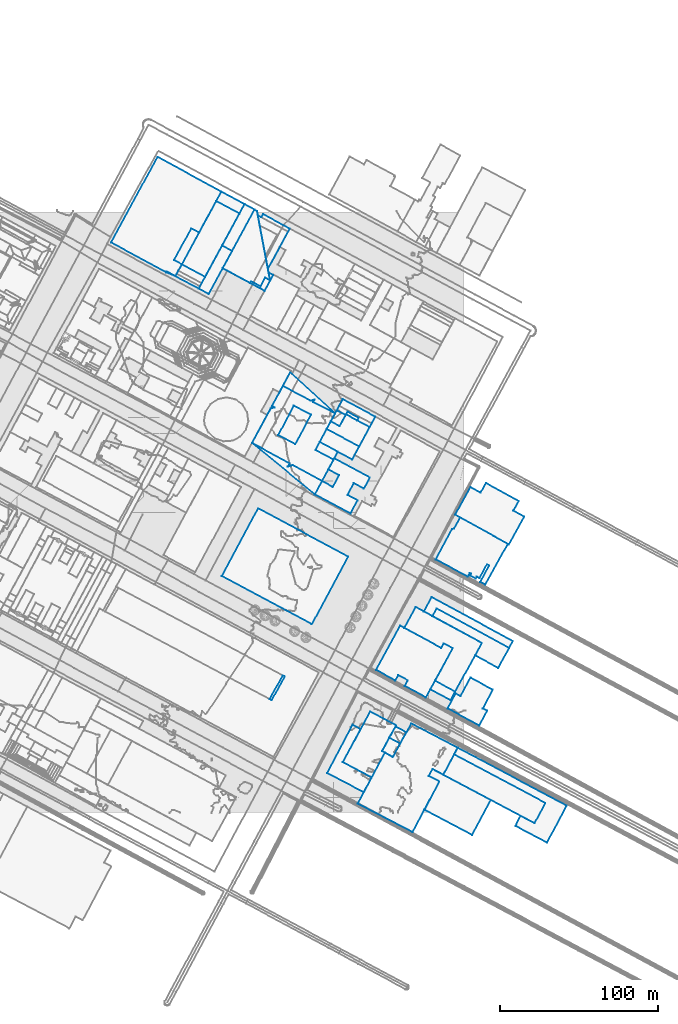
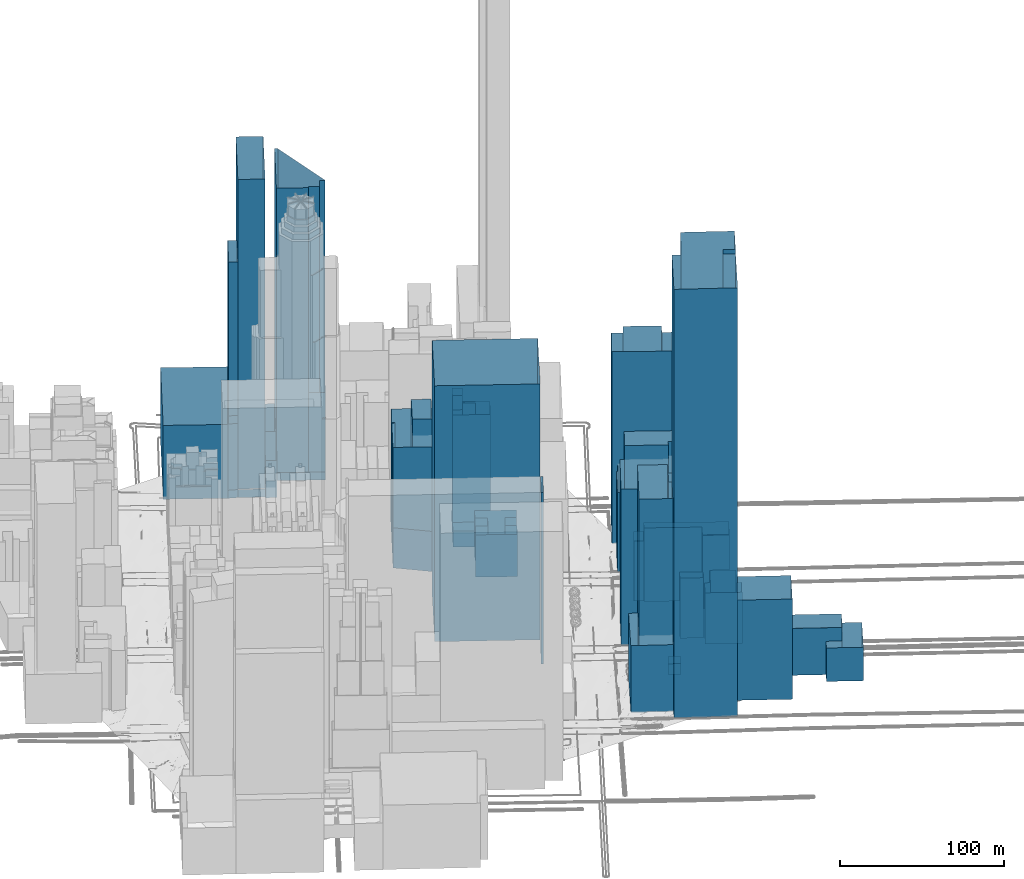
# Not in any storey, part 29 of 76: 37 walls.
"""IFC2X3 model written with IfcOpenShell, lengths in metres."""

from ifc_helpers import new_model, si_unit, frame, origin_with_axes, place, context, subcontext, project, faceted_brep, element, save


model = new_model("IFC2X3")

# Units and contexts
model_context = context("Model", 3, precision=1e-05, world=origin_with_axes())
body_context = subcontext(model_context, "Body", "Model", "MODEL_VIEW")
ifc_project = project(units=[si_unit("AREAUNIT", "SQUARE_METRE"), si_unit("LENGTHUNIT", "METRE")], contexts=[model_context])

# Walls
wall_1_placement = place(None, frame((366.2645429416, 36.6542156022, 20.5453743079), z_axis=(0.0, 0.0, 1.0), x_axis=(1.0, 0.0, 0.0)))
element("IfcWall", 1, at=wall_1_placement, Name="Mur 0", context=body_context, shape_type="Brep", body=[
    faceted_brep([(57.6510256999, -30.6476367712, 25.0), (0.0, 0.0, 25.0), (57.6510256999, -30.6476367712, 0.0), (0.0, 0.0, 0.0), (50.7770092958, -43.4731624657, 25.0), (50.7770092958, -43.4731624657, 0.0), (41.9344578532, -38.7800531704, 25.0), (41.9344578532, -38.7800531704, 0.0), (38.741565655, -45.1344526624, 25.0), (38.741565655, -45.1344526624, 0.0), (58.6609342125, -55.7269742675, 25.0), (58.6609342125, -55.7269742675, 0.0), (71.0847208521, -32.3451003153, 25.0), (71.0847208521, -32.3451003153, 0.0), (2.2468139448, 4.2339315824, 25.0), (2.2468139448, 4.2339315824, 0.0)], [[[0, 1, 2]], [[2, 1, 3]], [[4, 0, 5]], [[5, 0, 2]], [[6, 4, 7]], [[7, 4, 5]], [[8, 6, 9]], [[9, 6, 7]], [[10, 8, 11]], [[11, 8, 9]], [[12, 10, 13]], [[13, 10, 11]], [[1, 14, 3]], [[3, 14, 15]], [[14, 12, 15]], [[15, 12, 13]]]),
])
wall_2_placement = place(None, frame((351.223740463, 77.768312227, 19.2455414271), z_axis=(0.0, 0.0, 1.0), x_axis=(1.0, 0.0, 0.0)))
element("IfcWall", 2, at=wall_2_placement, Name="Mur 0", context=body_context, shape_type="Brep", body=[
    faceted_brep([(12.6918312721, -6.868784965, 45.0), (0.0, 0.0, 45.0), (12.6918312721, -6.868784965, 0.0), (0.0, 0.0, 0.0), (15.6589919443, -1.4274175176, 45.0), (15.6589919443, -1.4274175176, 0.0), (2.9670376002, 5.4524630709, 45.0), (2.9670376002, 5.4524630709, 0.0)], [[[0, 1, 2]], [[2, 1, 3]], [[4, 0, 5]], [[5, 0, 2]], [[1, 6, 3]], [[3, 6, 7]], [[6, 4, 7]], [[7, 4, 5]]]),
])
wall_3_placement = place(None, frame((362.0676322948, 65.7598579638, 18.6080020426), z_axis=(0.0, 0.0, 1.0), x_axis=(1.0, 0.0, 0.0)))
element("IfcWall", 3, at=wall_3_placement, Name="Mur 0", context=body_context, shape_type="Brep", body=[
    faceted_brep([(20.0566144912, -10.8019749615, 38.0999984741), (0.0, 0.0, 38.0999984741), (20.0566144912, -10.8019749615, 0.0), (0.0, 0.0, 0.0), (25.0968062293, -1.4284483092, 38.0999984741), (25.0968062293, -1.4284483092, 0.0), (22.3613697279, 0.0495845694, 38.0999984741), (22.3613697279, 0.0495845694, 0.0), (28.6575999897, 11.7470203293, 38.0999984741), (28.6575999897, 11.7470203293, 0.0), (14.5135056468, 19.3648949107, 38.0999984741), (14.5135056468, 19.3648949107, 0.0), (8.2419351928, 7.7232700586, 38.0999984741), (8.2419351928, 7.7232700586, 0.0), (5.0818940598, 9.4184075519, 38.0999984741), (5.0818940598, 9.4184075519, 0.0)], [[[0, 1, 2]], [[2, 1, 3]], [[4, 0, 5]], [[5, 0, 2]], [[6, 4, 7]], [[7, 4, 5]], [[8, 6, 9]], [[9, 6, 7]], [[10, 8, 11]], [[11, 8, 9]], [[12, 10, 13]], [[13, 10, 11]], [[1, 14, 3]], [[3, 14, 15]], [[14, 12, 15]], [[15, 12, 13]]]),
])
wall_4_placement = place(None, frame((347.1381641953, 127.0369642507, 18.5508047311), z_axis=(0.0, 0.0, 1.0), x_axis=(1.0, 0.0, 0.0)))
element("IfcWall", 4, at=wall_4_placement, Name="Mur 0", context=body_context, shape_type="Brep", body=[
    faceted_brep([(5.3954967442, -3.0124802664, 45.0), (0.0, 0.0, 45.0), (5.3954967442, -3.0124802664, 0.0), (0.0, 0.0, 0.0), (8.0571999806, 1.8369054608, 45.0), (8.0571999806, 1.8369054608, 0.0), (53.8061372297, -23.131939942, 45.0), (53.8061372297, -23.131939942, 0.0), (56.1693942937, -18.7523097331, 45.0), (56.1693942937, -18.7523097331, 0.0), (4.9095321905, 8.9945052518, 45.0), (4.9095321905, 8.9945052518, 0.0)], [[[0, 1, 2]], [[2, 1, 3]], [[4, 0, 5]], [[5, 0, 2]], [[6, 4, 7]], [[7, 4, 5]], [[8, 6, 9]], [[9, 6, 7]], [[1, 10, 3]], [[3, 10, 11]], [[10, 8, 11]], [[11, 8, 9]]]),
])
wall_5_placement = place(None, frame((352.5336609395, 124.0244839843, 18.1637870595), z_axis=(0.0, 0.0, 1.0), x_axis=(1.0, 0.0, 0.0)))
element("IfcWall", 5, at=wall_5_placement, Name="Mur 0", context=body_context, shape_type="Brep", body=[
    faceted_brep([(31.2631371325, -16.9997120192, 55.0), (0.0, 0.0, 55.0), (31.2631371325, -16.9997120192, 0.0), (0.0, 0.0, 0.0), (26.9895697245, -24.7877841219, 55.0), (26.9895697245, -24.7877841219, 0.0), (41.5765562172, -32.7446614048, 55.0), (41.5765562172, -32.7446614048, 0.0), (48.4106404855, -20.1194596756, 55.0), (48.4106404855, -20.1194596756, 0.0), (2.6617032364, 4.8493857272, 55.0), (2.6617032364, 4.8493857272, 0.0)], [[[0, 1, 2]], [[2, 1, 3]], [[4, 0, 5]], [[5, 0, 2]], [[6, 4, 7]], [[7, 4, 5]], [[8, 6, 9]], [[9, 6, 7]], [[1, 10, 3]], [[3, 10, 11]], [[10, 8, 11]], [[11, 8, 9]]]),
])
wall_6_placement = place(None, frame((334.7408311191, 116.6007819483, 18.3898649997), z_axis=(0.0, 0.0, 1.0), x_axis=(1.0, 0.0, 0.0)))
element("IfcWall", 6, at=wall_6_placement, Name="Mur 0", context=body_context, shape_type="Brep", body=[
    faceted_brep([(23.4383723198, -12.7055475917, 127.0), (0.0, 0.0, 127.0), (23.4383723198, -12.7055475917, 0.0), (0.0, 0.0, 0.0), (25.0583062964, -9.7334756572, 127.0), (25.0583062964, -9.7334756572, 0.0), (30.6991136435, -12.7874983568, 127.0), (30.6991136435, -12.7874983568, 0.0), (19.4499469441, -33.3800066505, 127.0), (19.4499469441, -33.3800066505, 0.0), (32.1419012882, -40.259887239, 127.0), (32.1419012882, -40.259887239, 0.0), (49.0559669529, -9.5760099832, 127.0), (49.0559669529, -9.5760099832, 0.0), (7.2237486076, 13.24030801, 127.0), (7.2237486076, 13.24030801, 0.0)], [[[0, 1, 2]], [[2, 1, 3]], [[4, 0, 5]], [[5, 0, 2]], [[6, 4, 7]], [[7, 4, 5]], [[8, 6, 9]], [[9, 6, 7]], [[10, 8, 11]], [[11, 8, 9]], [[12, 10, 13]], [[13, 10, 11]], [[1, 14, 3]], [[3, 14, 15]], [[14, 12, 15]], [[15, 12, 13]]]),
])
wall_7_placement = place(None, frame((316.8661601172, 90.1024902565, 18.3898649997), z_axis=(0.0, 0.0, 1.0), x_axis=(1.0, 0.0, 0.0)))
element("IfcWall", 7, at=wall_7_placement, Name="Mur 0", context=body_context, shape_type="Brep", body=[
    faceted_brep([(12.2588560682, -6.6629415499, 116.6999969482), (0.0, 0.0, 116.6999969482), (12.2588560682, -6.6629415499, 0.0), (0.0, 0.0, 0.0), (14.07724135, -3.3332932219, 116.6999969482), (14.07724135, -3.3332932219, 0.0), (20.1343500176, -6.6156371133, 116.6999969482), (20.1343500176, -6.6156371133, 0.0), (18.1999973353, -10.1353758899, 116.6999969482), (18.1999973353, -10.1353758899, 0.0), (31.5123618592, -17.3744372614, 116.6999969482), (31.5123618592, -17.3744372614, 0.0), (48.5737846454, 13.710793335, 116.6999969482), (48.5737846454, 13.710793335, 0.0), (42.9329772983, 16.7648160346, 116.6999969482), (42.9329772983, 16.7648160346, 0.0), (41.3130433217, 13.7927441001, 116.6999969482), (41.3130433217, 13.7927441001, 0.0), (15.300279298, 27.9227073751, 116.6999969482), (15.300279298, 27.9227073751, 0.0)], [[[0, 1, 2]], [[2, 1, 3]], [[4, 0, 5]], [[5, 0, 2]], [[6, 4, 7]], [[7, 4, 5]], [[8, 6, 9]], [[9, 6, 7]], [[10, 8, 11]], [[11, 8, 9]], [[12, 10, 13]], [[13, 10, 11]], [[14, 12, 15]], [[15, 12, 13]], [[16, 14, 17]], [[17, 14, 15]], [[1, 18, 3]], [[3, 18, 19]], [[18, 16, 19]], [[19, 16, 17]]]),
])
wall_8_placement = place(None, frame((325.3175902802, 47.212952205, 19.8238031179), z_axis=(0.0, 0.0, 1.0), x_axis=(1.0, 0.0, 0.0)))
element("IfcWall", 8, at=wall_8_placement, Name="Mur 0", context=body_context, shape_type="Brep", body=[
    faceted_brep([(6.8126112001, -3.6399257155, 8.0), (0.0, 0.0, 8.0), (6.8126112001, -3.6399257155, 0.0), (0.0, 0.0, 0.0), (10.7830119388, 3.3674274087, 8.0), (10.7830119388, 3.3674274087, 0.0), (3.893923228, 7.050867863, 8.0), (3.893923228, 7.050867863, 0.0)], [[[0, 1, 2]], [[2, 1, 3]], [[4, 0, 5]], [[5, 0, 2]], [[1, 6, 3]], [[3, 6, 7]], [[6, 4, 7]], [[7, 4, 5]]]),
])
wall_9_placement = place(None, frame((320.7317155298, 38.6885317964, 19.3320157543), z_axis=(0.0, 0.0, 1.0), x_axis=(1.0, 0.0, 0.0)))
element("IfcWall", 9, at=wall_9_placement, Name="Mur 0", context=body_context, shape_type="Brep", body=[
    faceted_brep([(6.8210570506, -3.6398316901, 151.0), (0.0, 0.0, 151.0), (6.8210570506, -3.6398316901, 0.0), (0.0, 0.0, 0.0), (11.3984859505, 4.884494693, 151.0), (11.3984859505, 4.884494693, 0.0), (4.5858747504, 8.5244204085, 151.0), (4.5858747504, 8.5244204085, 0.0)], [[[0, 1, 2]], [[2, 1, 3]], [[4, 0, 5]], [[5, 0, 2]], [[1, 6, 3]], [[3, 6, 7]], [[6, 4, 7]], [[7, 4, 5]]]),
])
wall_10_placement = place(None, frame((295.9848400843, 31.8056900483, 19.3320157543), z_axis=(0.0, 0.0, 1.0), x_axis=(1.0, 0.0, 0.0)))
element("IfcWall", 10, at=wall_10_placement, Name="Mur 0", context=body_context, shape_type="Brep", body=[
    faceted_brep([(18.152605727, -9.6807885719, 151.0), (0.0, 0.0, 151.0), (18.152605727, -9.6807885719, 0.0), (0.0, 0.0, 0.0), (26.5646548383, 5.9159065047, 151.0), (26.5646548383, 5.9159065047, 0.0), (24.7468754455, 6.8828417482, 151.0), (24.7468754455, 6.8828417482, 0.0), (33.5466758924, 23.2501167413, 151.0), (33.5466758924, 23.2501167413, 0.0), (17.2118998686, 31.9639296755, 151.0), (17.2118998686, 31.9639296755, 0.0)], [[[0, 1, 2]], [[2, 1, 3]], [[4, 0, 5]], [[5, 0, 2]], [[6, 4, 7]], [[7, 4, 5]], [[8, 6, 9]], [[9, 6, 7]], [[1, 10, 3]], [[3, 10, 11]], [[10, 8, 11]], [[11, 8, 9]]]),
])
wall_11_placement = place(None, frame((286.0454970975, 24.8510106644, 18.703520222), z_axis=(0.0, 0.0, 1.0), x_axis=(1.0, 0.0, 0.0)))
element("IfcWall", 11, at=wall_11_placement, Name="Mur 0", context=body_context, shape_type="Brep", body=[
    faceted_brep([(23.1269540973, -12.0431954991, 50.0), (0.0, 0.0, 50.0), (23.1269540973, -12.0431954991, 0.0), (0.0, 0.0, 0.0), (28.0919487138, -2.7261091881, 50.0), (28.0919487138, -2.7261091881, 0.0), (9.9393429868, 6.9546793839, 50.0), (9.9393429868, 6.9546793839, 0.0), (21.1440946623, 27.7575168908, 50.0), (21.1440946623, 27.7575168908, 0.0), (16.1055235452, 30.5632428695, 50.0), (16.1055235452, 30.5632428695, 0.0)], [[[0, 1, 2]], [[2, 1, 3]], [[4, 0, 5]], [[5, 0, 2]], [[6, 4, 7]], [[7, 4, 5]], [[8, 6, 9]], [[9, 6, 7]], [[1, 10, 3]], [[3, 10, 11]], [[10, 8, 11]], [[11, 8, 9]]]),
])
wall_12_placement = place(None, frame((305.3985923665, 5.5918232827, 19.5472220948), z_axis=(0.0, 0.0, 1.0), x_axis=(1.0, 0.0, 0.0)))
element("IfcWall", 12, at=wall_12_placement, Name="Mur 0", context=body_context, shape_type="Brep", body=[
    faceted_brep([(34.6180123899, -17.9933581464, 320.0), (0.0, 0.0, 320.0), (34.6180123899, -17.9933581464, 0.0), (0.0, 0.0, 0.0), (51.5516846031, 13.93412623, 320.0), (51.5516846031, 13.93412623, 0.0), (44.841101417, 17.5086047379, 320.0), (44.841101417, 17.5086047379, 0.0), (47.1626007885, 21.8544235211, 320.0), (47.1626007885, 21.8544235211, 0.0), (53.9919956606, 18.2258198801, 320.0), (53.9919956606, 18.2258198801, 0.0), (63.1127645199, 35.296323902, 320.0), (63.1127645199, 35.296323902, 0.0), (33.8269836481, 50.6537947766, 320.0), (33.8269836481, 50.6537947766, 0.0), (22.1541802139, 29.4568768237, 320.0), (22.1541802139, 29.4568768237, 0.0), (17.1509025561, 32.1297732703, 320.0), (17.1509025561, 32.1297732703, 0.0)], [[[0, 1, 2]], [[2, 1, 3]], [[4, 0, 5]], [[5, 0, 2]], [[6, 4, 7]], [[7, 4, 5]], [[8, 6, 9]], [[9, 6, 7]], [[10, 8, 11]], [[11, 8, 9]], [[12, 10, 13]], [[13, 10, 11]], [[14, 12, 15]], [[15, 12, 13]], [[16, 14, 17]], [[17, 14, 15]], [[1, 18, 3]], [[3, 18, 19]], [[18, 16, 19]], [[19, 16, 17]]]),
])
wall_13_placement = place(None, frame((347.4572556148, 1.796092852, 20.3614833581), z_axis=(0.0, 0.0, 1.0), x_axis=(1.0, 0.0, 0.0)))
element("IfcWall", 13, at=wall_13_placement, Name="Mur 0", context=body_context, shape_type="Brep", body=[
    faceted_brep([(30.0699170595, -15.9811361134, 74.8000030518), (0.0, 0.0, 74.8000030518), (30.0699170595, -15.9811361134, 0.0), (0.0, 0.0, 0.0), (41.8928147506, 6.0946882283, 74.8000030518), (41.8928147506, 6.0946882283, 0.0), (5.1039375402, 25.6501539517, 74.8000030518), (5.1039375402, 25.6501539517, 0.0), (2.7824381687, 21.3043351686, 74.8000030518), (2.7824381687, 21.3043351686, 0.0), (9.4930213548, 17.7298566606, 74.8000030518), (9.4930213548, 17.7298566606, 0.0)], [[[0, 1, 2]], [[2, 1, 3]], [[4, 0, 5]], [[5, 0, 2]], [[6, 4, 7]], [[7, 4, 5]], [[8, 6, 9]], [[9, 6, 7]], [[1, 10, 3]], [[3, 10, 11]], [[10, 8, 11]], [[11, 8, 9]]]),
])
wall_14_placement = place(None, frame((359.3905880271, 23.8176431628, 20.6359845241), z_axis=(0.0, 0.0, 1.0), x_axis=(1.0, 0.0, 0.0)))
element("IfcWall", 14, at=wall_14_placement, Name="Mur 0", context=body_context, shape_type="Brep", body=[
    faceted_brep([(57.6509642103, -30.6365900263, 35.0), (0.0, 0.0, 35.0), (57.6509642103, -30.6365900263, 0.0), (0.0, 0.0, 0.0), (64.5249806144, -17.8110643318, 35.0), (64.5249806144, -17.8110643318, 0.0), (6.8739549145, 12.8365724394, 35.0), (6.8739549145, 12.8365724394, 0.0)], [[[0, 1, 2]], [[2, 1, 3]], [[4, 0, 5]], [[5, 0, 2]], [[1, 6, 3]], [[3, 6, 7]], [[6, 4, 7]], [[7, 4, 5]]]),
])
wall_15_placement = place(None, frame((249.6836035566, 71.5902685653, 39.4467245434), z_axis=(0.0, 0.0, 1.0), x_axis=(1.0, 0.0, 0.0)))
element("IfcWall", 15, at=wall_15_placement, Name="Mur 0", context=body_context, shape_type="Brep", body=[
    faceted_brep([(1.2910926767, -0.6844212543, 128.0), (0.0, 0.0, 128.0), (1.2910926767, -0.6844212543, 0.0), (0.0, 0.0, 0.0), (9.6089023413, 14.3115828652, 128.0), (9.6089023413, 14.3115828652, 0.0), (8.3176822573, 15.0071034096, 128.0), (8.3176822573, 15.0071034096, 0.0)], [[[0, 1, 2]], [[2, 1, 3]], [[4, 0, 5]], [[5, 0, 2]], [[1, 6, 3]], [[3, 6, 7]], [[6, 4, 7]], [[7, 4, 5]]]),
])
wall_16_placement = place(None, frame((219.5112298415, 149.4213804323, 19.4237571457), z_axis=(0.0, 0.0, 1.0), x_axis=(1.0, 0.0, 0.0)))
element("IfcWall", 16, at=wall_16_placement, Name="Mur 0", context=body_context, shape_type="Brep", body=[
    faceted_brep([(56.8882083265, -30.5132920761, 191.0), (0.0, 0.0, 191.0), (56.8882083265, -30.5132920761, 0.0), (0.0, 0.0, 0.0), (79.8162954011, 12.2086158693, 191.0), (79.8162954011, 12.2086158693, 0.0), (22.9281798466, 42.7328309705, 191.0), (22.9281798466, 42.7328309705, 0.0)], [[[0, 1, 2]], [[2, 1, 3]], [[4, 0, 5]], [[5, 0, 2]], [[1, 6, 3]], [[3, 6, 7]], [[6, 4, 7]], [[7, 4, 5]]]),
])
wall_17_placement = place(None, frame((238.5657352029, 233.4317503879, 16.8303387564), z_axis=(0.0, 0.0, 1.0), x_axis=(1.0, 0.0, 0.0)))
element("IfcWall", 17, at=wall_17_placement, Name="Mur 0", context=body_context, shape_type="Brep", body=[
    faceted_brep([(39.6892356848, -32.423071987, 30.0), (0.0, 0.0, 30.0), (39.6892356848, -32.423071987, 0.0), (0.0, 0.0, 0.0), (54.2336192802, -5.5639508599, 30.0), (54.2336192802, -5.5639508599, 0.0), (42.7234641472, 0.6192596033, 30.0), (42.7234641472, 0.6192596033, 0.0), (52.5160379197, 18.7078011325, 30.0), (52.5160379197, 18.7078011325, 0.0), (24.1716147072, 44.6569637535, 30.0), (24.1716147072, 44.6569637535, 0.0)], [[[0, 1, 2]], [[2, 1, 3]], [[4, 0, 5]], [[5, 0, 2]], [[6, 4, 7]], [[7, 4, 5]], [[8, 6, 9]], [[9, 6, 7]], [[1, 10, 3]], [[3, 10, 11]], [[10, 8, 11]], [[11, 8, 9]]]),
])
wall_18_placement = place(None, frame((238.5657352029, 233.4317503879, 16.8288003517), z_axis=(0.0, 0.0, 1.0), x_axis=(1.0, 0.0, 0.0)))
element("IfcWall", 18, at=wall_18_placement, Name="Mur 0", context=body_context, shape_type="Brep", body=[
    faceted_brep([(23.8036133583, -12.9458392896, 90.0), (0.0, 0.0, 90.0), (23.8036133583, -12.9458392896, 0.0), (0.0, 0.0, 0.0), (22.5444502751, -15.0033068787, 90.0), (22.5444502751, -15.0033068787, 0.0), (25.6386092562, -13.9458941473, 90.0), (25.6386092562, -13.9458941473, 0.0), (44.2262175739, -24.0546749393, 90.0), (44.2262175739, -24.0546749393, 0.0), (51.6324175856, -10.5347354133, 90.0), (51.6324175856, -10.5347354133, 0.0), (40.0549929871, -4.3745082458, 90.0), (40.0549929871, -4.3745082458, 0.0), (52.5160379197, 18.7078011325, 90.0), (52.5160379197, 18.7078011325, 0.0), (38.7491765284, 25.8639517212, 90.0), (38.7491765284, 25.8639517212, 0.0), (39.5570742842, 27.5275912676, 90.0), (39.5570742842, 27.5275912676, 0.0), (37.0929847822, 26.7328570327, 90.0), (37.0929847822, 26.7328570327, 0.0), (19.5537404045, 35.9878752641, 90.0), (19.5537404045, 35.9878752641, 0.0), (12.610114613, 23.3393253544, 90.0), (12.610114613, 23.3393253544, 0.0), (14.2581221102, 22.4481148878, 90.0), (14.2581221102, 22.4481148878, 0.0), (11.841957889, 21.887094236, 90.0), (11.841957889, 21.887094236, 0.0)], [[[0, 1, 2]], [[2, 1, 3]], [[4, 0, 5]], [[5, 0, 2]], [[6, 4, 7]], [[7, 4, 5]], [[8, 6, 9]], [[9, 6, 7]], [[10, 8, 11]], [[11, 8, 9]], [[12, 10, 13]], [[13, 10, 11]], [[14, 12, 15]], [[15, 12, 13]], [[16, 14, 17]], [[17, 14, 15]], [[18, 16, 19]], [[19, 16, 17]], [[20, 18, 21]], [[21, 18, 19]], [[22, 20, 23]], [[23, 20, 21]], [[24, 22, 25]], [[25, 22, 23]], [[26, 24, 27]], [[27, 24, 25]], [[1, 28, 3]], [[3, 28, 29]], [[28, 26, 29]], [[29, 26, 27]]]),
])
wall_19_placement = place(None, frame((255.1464477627, 238.3653204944, 18.4349327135), z_axis=(0.0, 0.0, 1.0), x_axis=(1.0, 0.0, 0.0)))
element("IfcWall", 19, at=wall_19_placement, Name="Mur 0", context=body_context, shape_type="Brep", body=[
    faceted_brep([(10.8206467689, -5.6916724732, 100.5999984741), (0.0, 0.0, 100.5999984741), (10.8206467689, -5.6916724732, 0.0), (0.0, 0.0, 0.0), (20.6914610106, 12.9306667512, 100.5999984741), (20.6914610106, 12.9306667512, 0.0), (9.8708329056, 18.6223246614, 100.5999984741), (9.8708329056, 18.6223246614, 0.0)], [[[0, 1, 2]], [[2, 1, 3]], [[4, 0, 5]], [[5, 0, 2]], [[1, 6, 3]], [[3, 6, 7]], [[6, 4, 7]], [[7, 4, 5]]]),
])
wall_20_placement = place(None, frame((281.2891993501, 234.0510099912, 16.9743140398), z_axis=(0.0, 0.0, 1.0), x_axis=(1.0, 0.0, 0.0)))
element("IfcWall", 20, at=wall_20_placement, Name="Mur 0", context=body_context, shape_type="Brep", body=[
    faceted_brep([(20.548297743, -11.0296043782, 12.0), (0.0, 0.0, 12.0), (20.548297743, -11.0296043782, 0.0), (0.0, 0.0, 0.0), (24.9775825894, -2.8400815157, 12.0), (24.9775825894, -2.8400815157, 0.0), (4.43774046, 8.1896087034, 12.0), (4.43774046, 8.1896087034, 0.0)], [[[0, 1, 2]], [[2, 1, 3]], [[4, 0, 5]], [[5, 0, 2]], [[1, 6, 3]], [[3, 6, 7]], [[6, 4, 7]], [[7, 4, 5]]]),
])
wall_21_placement = place(None, frame((288.3298169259, 247.0670920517, 18.7313016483), z_axis=(0.0, 0.0, 1.0), x_axis=(1.0, 0.0, 0.0)))
element("IfcWall", 21, at=wall_21_placement, Name="Mur 0", context=body_context, shape_type="Brep", body=[
    faceted_brep([(5.5893839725, -2.9991613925, 101.0), (0.0, 0.0, 101.0), (5.5893839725, -2.9991613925, 0.0), (0.0, 0.0, 0.0), (9.3741480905, 3.9949121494, 101.0), (9.3741480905, 3.9949121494, 0.0), (3.7847676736, 6.9940706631, 101.0), (3.7847676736, 6.9940706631, 0.0)], [[[0, 1, 2]], [[2, 1, 3]], [[4, 0, 5]], [[5, 0, 2]], [[1, 6, 3]], [[3, 6, 7]], [[6, 4, 7]], [[7, 4, 5]]]),
])
wall_22_placement = place(None, frame((297.9268132, 251.4975866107, 44.1625825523), z_axis=(0.0, 0.0, 1.0), x_axis=(1.0, 0.0, 0.0)))
element("IfcWall", 22, at=wall_22_placement, Name="Mur 0", context=body_context, shape_type="Brep", body=[
    faceted_brep([(7.1354708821, -3.8360285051, 64.0), (0.0, 0.0, 64.0), (7.1354708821, -3.8360285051, 0.0), (0.0, 0.0, 0.0), (8.0608818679, -2.115506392, 64.0), (8.0608818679, -2.115506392, 0.0), (0.933852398, 1.7206194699, 64.0), (0.933852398, 1.7206194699, 0.0)], [[[0, 1, 2]], [[2, 1, 3]], [[4, 0, 5]], [[5, 0, 2]], [[1, 6, 3]], [[3, 6, 7]], [[6, 4, 7]], [[7, 4, 5]]]),
])
wall_23_placement = place(None, frame((285.7269398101, 242.2406186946, 17.7274277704), z_axis=(0.0, 0.0, 1.0), x_axis=(1.0, 0.0, 0.0)))
element("IfcWall", 23, at=wall_23_placement, Name="Mur 0", context=body_context, shape_type="Brep", body=[
    faceted_brep([(20.5398421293, -11.0296902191, 91.4000015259), (0.0, 0.0, 91.4000015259), (20.5398421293, -11.0296902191, 0.0), (0.0, 0.0, 0.0), (27.1673222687, 1.2155503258, 91.4000015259), (27.1673222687, 1.2155503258, 0.0), (12.1998733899, 9.2569679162, 91.4000015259), (12.1998733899, 9.2569679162, 0.0), (8.1922610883, 1.8273119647, 91.4000015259), (8.1922610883, 1.8273119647, 0.0), (2.6028771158, 4.8264733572, 91.4000015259), (2.6028771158, 4.8264733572, 0.0)], [[[0, 1, 2]], [[2, 1, 3]], [[4, 0, 5]], [[5, 0, 2]], [[6, 4, 7]], [[7, 4, 5]], [[8, 6, 9]], [[9, 6, 7]], [[1, 10, 3]], [[3, 10, 11]], [[10, 8, 11]], [[11, 8, 9]]]),
])
wall_24_placement = place(None, frame((281.2891993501, 234.0510099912, 16.9743140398), z_axis=(0.0, 0.0, 1.0), x_axis=(1.0, 0.0, 0.0)))
element("IfcWall", 24, at=wall_24_placement, Name="Mur 0", context=body_context, shape_type="Brep", body=[
    faceted_brep([(20.548297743, -11.0296043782, 6.0), (0.0, 0.0, 6.0), (20.548297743, -11.0296043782, 0.0), (0.0, 0.0, 0.0), (35.1750149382, 15.9970600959, 6.0), (35.1750149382, 15.9970600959, 0.0), (14.6350787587, 27.0378225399, 6.0), (14.6350787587, 27.0378225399, 0.0)], [[[0, 1, 2]], [[2, 1, 3]], [[4, 0, 5]], [[5, 0, 2]], [[1, 6, 3]], [[3, 6, 7]], [[6, 4, 7]], [[7, 4, 5]]]),
])
wall_25_placement = place(None, frame((278.2549708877, 201.0086784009, 15.6757471), z_axis=(0.0, 0.0, 1.0), x_axis=(1.0, 0.0, 0.0)))
element("IfcWall", 25, at=wall_25_placement, Name="Mur 0", context=body_context, shape_type="Brep", body=[
    faceted_brep([(22.4777859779, -12.1617877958, 31.6000003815), (0.0, 0.0, 31.6000003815), (22.4777859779, -12.1617877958, 0.0), (0.0, 0.0, 0.0), (27.0063104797, -3.7934751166, 31.6000003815), (27.0063104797, -3.7934751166, 0.0), (20.6180660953, -0.3373262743, 31.6000003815), (20.6180660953, -0.3373262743, 0.0), (24.609593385, 7.0255305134, 31.6000003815), (24.609593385, 7.0255305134, 0.0), (30.9978335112, 3.5693851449, 31.6000003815), (30.9978335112, 3.5693851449, 0.0), (34.7826050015, 10.5634660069, 31.6000003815), (34.7826050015, 10.5634660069, 0.0), (12.3131764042, 22.7364151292, 31.6000003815), (12.3131764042, 22.7364151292, 0.0), (8.5200795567, 15.7311468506, 31.6000003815), (8.5200795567, 15.7311468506, 0.0), (15.3500450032, 12.0358801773, 31.6000003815), (15.3500450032, 12.0358801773, 0.0), (11.3669518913, 4.6731266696, 31.6000003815), (11.3669518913, 4.6731266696, 0.0), (4.536981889, 8.3683970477, 31.6000003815), (4.536981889, 8.3683970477, 0.0)], [[[0, 1, 2]], [[2, 1, 3]], [[4, 0, 5]], [[5, 0, 2]], [[6, 4, 7]], [[7, 4, 5]], [[8, 6, 9]], [[9, 6, 7]], [[10, 8, 11]], [[11, 8, 9]], [[12, 10, 13]], [[13, 10, 11]], [[14, 12, 15]], [[15, 12, 13]], [[16, 14, 17]], [[17, 14, 15]], [[18, 16, 19]], [[19, 16, 17]], [[20, 18, 21]], [[21, 18, 19]], [[1, 22, 3]], [[3, 22, 23]], [[22, 20, 23]], [[23, 20, 21]]]),
])
wall_26_placement = place(None, frame((354.5806057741, 159.9086306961, 17.7443665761), z_axis=(0.0, 0.0, 1.0), x_axis=(1.0, 0.0, 0.0)))
element("IfcWall", 26, at=wall_26_placement, Name="Mur 0", context=body_context, shape_type="Brep", body=[
    faceted_brep([(20.2430773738, -10.8886351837, 59.5), (0.0, 0.0, 59.5), (20.2430773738, -10.8886351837, 0.0), (0.0, 0.0, 0.0), (21.4989884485, -8.5536292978, 59.5), (21.4989884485, -8.5536292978, 0.0), (22.5353152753, -9.1077698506, 59.5), (22.5353152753, -9.1077698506, 0.0), (21.8992428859, -10.3031231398, 59.5), (21.8992428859, -10.3031231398, 0.0), (25.339599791, -12.150421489, 59.5), (25.339599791, -12.150421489, 0.0), (26.0172271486, -10.8990723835, 59.5), (26.0172271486, -10.8990723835, 0.0), (27.7331858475, -11.8227699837, 59.5), (27.7331858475, -11.8227699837, 0.0), (32.40982227, -3.1307145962, 59.5), (32.40982227, -3.1307145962, 0.0), (33.7605140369, -3.8588264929, 59.5), (33.7605140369, -3.8588264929, 0.0), (28.183275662, -14.2267162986, 59.5), (28.183275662, -14.2267162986, 0.0), (31.3347213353, -15.9108444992, 59.5), (31.3347213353, -15.9108444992, 0.0), (45.6136333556, 9.8018659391, 59.5), (45.6136333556, 9.8018659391, 0.0), (15.4436623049, 26.458968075, 59.5), (15.4436623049, 26.458968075, 0.0), (11.6676290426, 19.4427545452, 59.5), (11.6676290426, 19.4427545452, 0.0), (10.3118314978, 19.1605049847, 59.5), (10.3118314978, 19.1605049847, 0.0)], [[[0, 1, 2]], [[2, 1, 3]], [[4, 0, 5]], [[5, 0, 2]], [[6, 4, 7]], [[7, 4, 5]], [[8, 6, 9]], [[9, 6, 7]], [[10, 8, 11]], [[11, 8, 9]], [[12, 10, 13]], [[13, 10, 11]], [[14, 12, 15]], [[15, 12, 13]], [[16, 14, 17]], [[17, 14, 15]], [[18, 16, 19]], [[19, 16, 17]], [[20, 18, 21]], [[21, 18, 19]], [[22, 20, 23]], [[23, 20, 21]], [[24, 22, 25]], [[25, 22, 23]], [[26, 24, 27]], [[27, 24, 25]], [[28, 26, 29]], [[29, 26, 27]], [[1, 30, 3]], [[3, 30, 31]], [[30, 28, 31]], [[31, 28, 29]]]),
])
wall_27_placement = place(None, frame((366.8637568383, 188.1071389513, 17.7938249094), z_axis=(0.0, 0.0, 1.0), x_axis=(1.0, 0.0, 0.0)))
element("IfcWall", 27, at=wall_27_placement, Name="Mur 0", context=body_context, shape_type="Brep", body=[
    faceted_brep([(33.9506416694, -18.7335846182, 143.0), (0.0, 0.0, 143.0), (33.9506416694, -18.7335846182, 0.0), (0.0, 0.0, 0.0), (43.7072874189, -1.2004133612, 143.0), (43.7072874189, -1.2004133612, 0.0), (36.8338707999, 2.5941615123, 143.0), (36.8338707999, 2.5941615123, 0.0), (40.1741687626, 8.6061127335, 143.0), (40.1741687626, 8.6061127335, 0.0), (19.4860618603, 20.0223811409, 143.0), (19.4860618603, 20.0223811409, 0.0), (16.0878345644, 13.9098440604, 143.0), (16.0878345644, 13.9098440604, 0.0), (9.6986507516, 17.4436317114, 143.0), (9.6986507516, 17.4436317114, 0.0)], [[[0, 1, 2]], [[2, 1, 3]], [[4, 0, 5]], [[5, 0, 2]], [[6, 4, 7]], [[7, 4, 5]], [[8, 6, 9]], [[9, 6, 7]], [[10, 8, 11]], [[11, 8, 9]], [[12, 10, 13]], [[13, 10, 11]], [[1, 14, 3]], [[3, 14, 15]], [[14, 12, 15]], [[15, 12, 13]]]),
])
wall_28_placement = place(None, frame((219.6501998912, 358.1121317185, 21.8344391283), z_axis=(0.0, 0.0, 1.0), x_axis=(1.0, 0.0, 0.0)))
element("IfcWall", 28, at=wall_28_placement, Name="Mur 0", context=body_context, shape_type="Brep", body=[
    faceted_brep([(6.2692645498, -3.4020859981, 27.7000007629), (0.0, 0.0, 27.7000007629), (6.2692645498, -3.4020859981, 0.0), (0.0, 0.0, 0.0), (20.4756016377, 22.7535668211, 27.7000007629), (20.4756016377, 22.7535668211, 0.0), (14.1893424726, 26.1665450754, 27.7000007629), (14.1893424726, 26.1665450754, 0.0)], [[[0, 1, 2]], [[2, 1, 3]], [[4, 0, 5]], [[5, 0, 2]], [[1, 6, 3]], [[3, 6, 7]], [[6, 4, 7]], [[7, 4, 5]]]),
])
wall_29_placement = place(None, frame((237.4075822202, 334.4377302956, 21.8574343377), z_axis=(0.0, 0.0, 1.0), x_axis=(1.0, 0.0, 0.0)))
element("IfcWall", 29, at=wall_29_placement, Name="Mur 0", context=body_context, shape_type="Brep", body=[
    faceted_brep([(9.0722546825, -4.8904699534, 65.0), (0.0, 0.0, 65.0), (9.0722546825, -4.8904699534, 0.0), (0.0, 0.0, 0.0), (12.6339095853, 1.6902007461, 65.0), (12.6339095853, 1.6902007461, 0.0), (9.4062271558, 3.4068039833, 65.0), (9.4062271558, 3.4068039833, 0.0), (6.507259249, -2.0892360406, 65.0), (6.507259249, -2.0892360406, 0.0), (0.6119191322, 1.095140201, 65.0), (0.6119191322, 1.095140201, 0.0)], [[[0, 1, 2]], [[2, 1, 3]], [[4, 0, 5]], [[5, 0, 2]], [[6, 4, 7]], [[7, 4, 5]], [[8, 6, 9]], [[9, 6, 7]], [[1, 10, 3]], [[3, 10, 11]], [[10, 8, 11]], [[11, 8, 9]]]),
])
wall_30_placement = place(None, frame((220.0023122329, 343.8054149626, 21.493715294), z_axis=(0.0, 0.0, 1.0), x_axis=(1.0, 0.0, 0.0)))
element("IfcWall", 30, at=wall_30_placement, Name="Mur 0", context=body_context, shape_type="Brep", body=[
    faceted_brep([(26.4775246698, -14.2581546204, 6.0), (0.0, 0.0, 6.0), (26.4775246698, -14.2581546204, 0.0), (0.0, 0.0, 0.0), (31.9063663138, -4.1918534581, 6.0), (31.9063663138, -4.1918534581, 0.0), (29.1545647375, -2.74727068, 6.0), (29.1545647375, -2.74727068, 0.0), (28.6785615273, -0.2881071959, 6.0), (28.6785615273, -0.2881071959, 0.0), (42.4133124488, 25.0405352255, 6.0), (42.4133124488, 25.0405352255, 0.0), (25.5002002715, 34.1918411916, 6.0), (25.5002002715, 34.1918411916, 0.0), (24.4257112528, 32.2253420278, 6.0), (24.4257112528, 32.2253420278, 0.0), (22.3276907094, 33.344465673, 6.0), (22.3276907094, 33.344465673, 0.0), (21.8057455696, 36.1250606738, 6.0), (21.8057455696, 36.1250606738, 0.0), (20.1234892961, 37.0602835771, 6.0), (20.1234892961, 37.0602835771, 0.0)], [[[0, 1, 2]], [[2, 1, 3]], [[4, 0, 5]], [[5, 0, 2]], [[6, 4, 7]], [[7, 4, 5]], [[8, 6, 9]], [[9, 6, 7]], [[10, 8, 11]], [[11, 8, 9]], [[12, 10, 13]], [[13, 10, 11]], [[14, 12, 15]], [[15, 12, 13]], [[16, 14, 17]], [[17, 14, 15]], [[18, 16, 19]], [[19, 16, 17]], [[1, 20, 3]], [[3, 20, 21]], [[20, 18, 21]], [[21, 18, 19]]]),
])
wall_31_placement = place(None, frame((220.0023122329, 343.8054149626, 21.8574343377), z_axis=(0.0, 0.0, 1.0), x_axis=(1.0, 0.0, 0.0)))
element("IfcWall", 31, at=wall_31_placement, Name="Mur 0", context=body_context, shape_type="Brep", body=[
    faceted_brep([(17.4052699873, -9.367684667, 218.0), (0.0, 0.0, 218.0), (17.4052699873, -9.367684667, 0.0), (0.0, 0.0, 0.0), (18.0171891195, -8.272544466, 218.0), (18.0171891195, -8.272544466, 0.0), (23.9125292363, -11.4569207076, 218.0), (23.9125292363, -11.4569207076, 0.0), (26.8114971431, -5.9608806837, 218.0), (26.8114971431, -5.9608806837, 0.0), (30.0391795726, -7.6774839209, 218.0), (30.0391795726, -7.6774839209, 0.0), (21.8057455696, 36.1250606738, 218.0), (21.8057455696, 36.1250606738, 0.0), (20.1234892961, 37.0602835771, 218.0), (20.1234892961, 37.0602835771, 0.0)], [[[0, 1, 2]], [[2, 1, 3]], [[4, 0, 5]], [[5, 0, 2]], [[6, 4, 7]], [[7, 4, 5]], [[8, 6, 9]], [[9, 6, 7]], [[10, 8, 11]], [[11, 8, 9]], [[12, 10, 13]], [[13, 10, 11]], [[1, 14, 3]], [[3, 14, 15]], [[14, 12, 15]], [[15, 12, 13]]]),
])
wall_32_placement = place(None, frame((194.2357723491, 346.2924328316, 22.8993147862), z_axis=(0.0, 0.0, 1.0), x_axis=(1.0, 0.0, 0.0)))
element("IfcWall", 32, at=wall_32_placement, Name="Mur 0", context=body_context, shape_type="Brep", body=[
    faceted_brep([(14.695507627, -7.911555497, 231.0), (0.0, 0.0, 231.0), (14.695507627, -7.911555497, 0.0), (0.0, 0.0, 0.0), (36.3976918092, 32.0425454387, 231.0), (36.3976918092, 32.0425454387, 0.0), (21.7021083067, 39.9651582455, 231.0), (21.7021083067, 39.9651582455, 0.0)], [[[0, 1, 2]], [[2, 1, 3]], [[4, 0, 5]], [[5, 0, 2]], [[1, 6, 3]], [[3, 6, 7]], [[6, 4, 7]], [[7, 4, 5]]]),
])
wall_33_placement = place(None, frame((189.3088417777, 348.9551990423, 22.410062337), z_axis=(0.0, 0.0, 1.0), x_axis=(1.0, 0.0, 0.0)))
element("IfcWall", 33, at=wall_33_placement, Name="Mur 0", context=body_context, shape_type="Brep", body=[
    faceted_brep([(4.9269305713, -2.6627662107, 6.0), (0.0, 0.0, 6.0), (4.9269305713, -2.6627662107, 0.0), (0.0, 0.0, 0.0), (0.8608347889, -10.1485570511, 6.0), (0.8608347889, -10.1485570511, 0.0), (15.5890804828, -17.9709220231, 6.0), (15.5890804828, -17.9709220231, 0.0), (44.530700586, 35.3234777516, 6.0), (44.530700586, 35.3234777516, 0.0), (29.8769383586, 43.2798772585, 6.0), (29.8769383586, 43.2798772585, 0.0), (15.8109363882, 17.3923517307, 6.0), (15.8109363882, 17.3923517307, 0.0), (10.8841438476, 20.0440098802, 6.0), (10.8841438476, 20.0440098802, 0.0)], [[[0, 1, 2]], [[2, 1, 3]], [[4, 0, 5]], [[5, 0, 2]], [[6, 4, 7]], [[7, 4, 5]], [[8, 6, 9]], [[9, 6, 7]], [[10, 8, 11]], [[11, 8, 9]], [[12, 10, 13]], [[13, 10, 11]], [[1, 14, 3]], [[3, 14, 15]], [[14, 12, 15]], [[15, 12, 13]]]),
])
wall_34_placement = place(None, frame((189.3088417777, 348.9551990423, 22.410062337), z_axis=(0.0, 0.0, 1.0), x_axis=(1.0, 0.0, 0.0)))
element("IfcWall", 34, at=wall_34_placement, Name="Mur 0", context=body_context, shape_type="Brep", body=[
    faceted_brep([(4.9269305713, -2.6627662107, 170.0), (0.0, 0.0, 170.0), (4.9269305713, -2.6627662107, 0.0), (0.0, 0.0, 0.0), (15.8109363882, 17.3923517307, 170.0), (15.8109363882, 17.3923517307, 0.0), (10.8841438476, 20.0440098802, 170.0), (10.8841438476, 20.0440098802, 0.0)], [[[0, 1, 2]], [[2, 1, 3]], [[4, 0, 5]], [[5, 0, 2]], [[1, 6, 3]], [[3, 6, 7]], [[6, 4, 7]], [[7, 4, 5]]]),
])
wall_35_placement = place(None, frame((204.8979222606, 330.9842770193, 21.8344391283), z_axis=(0.0, 0.0, 1.0), x_axis=(1.0, 0.0, 0.0)))
element("IfcWall", 35, at=wall_35_placement, Name="Mur 0", context=body_context, shape_type="Brep", body=[
    faceted_brep([(6.2862894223, -3.4130030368, 27.7000007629), (0.0, 0.0, 27.7000007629), (6.2862894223, -3.4130030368, 0.0), (0.0, 0.0, 0.0), (21.0215421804, 23.7257687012, 27.7000007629), (21.0215421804, 23.7257687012, 0.0), (14.7522776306, 27.1278546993, 27.7000007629), (14.7522776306, 27.1278546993, 0.0)], [[[0, 1, 2]], [[2, 1, 3]], [[4, 0, 5]], [[5, 0, 2]], [[1, 6, 3]], [[3, 6, 7]], [[6, 4, 7]], [[7, 4, 5]]]),
])
wall_36_placement = place(None, frame((149.4964624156, 360.1164702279, 22.410062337), z_axis=(0.0, 0.0, 1.0), x_axis=(1.0, 0.0, 0.0)))
element("IfcWall", 36, at=wall_36_placement, Name="Mur 0", context=body_context, shape_type="Brep", body=[
    faceted_brep([(34.744220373, -18.8585502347, 6.0), (0.0, 0.0, 6.0), (34.744220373, -18.8585502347, 0.0), (0.0, 0.0, 0.0), (40.6732141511, -21.3098282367, 6.0), (40.6732141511, -21.3098282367, 0.0), (44.7393099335, -13.8240373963, 6.0), (44.7393099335, -13.8240373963, 0.0), (39.8123793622, -11.1612711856, 6.0), (39.8123793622, -11.1612711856, 0.0), (50.6965232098, 8.8827386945, 6.0), (50.6965232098, 8.8827386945, 0.0), (55.6233157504, 6.2310805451, 6.0), (55.6233157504, 6.2310805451, 0.0), (69.6893177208, 32.1186060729, 6.0), (69.6893177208, 32.1186060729, 0.0), (29.3384984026, 54.0315411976, 6.0), (29.3384984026, 54.0315411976, 0.0)], [[[0, 1, 2]], [[2, 1, 3]], [[4, 0, 5]], [[5, 0, 2]], [[6, 4, 7]], [[7, 4, 5]], [[8, 6, 9]], [[9, 6, 7]], [[10, 8, 11]], [[11, 8, 9]], [[12, 10, 13]], [[13, 10, 11]], [[14, 12, 15]], [[15, 12, 13]], [[1, 16, 3]], [[3, 16, 17]], [[16, 14, 17]], [[17, 14, 15]]]),
])
wall_37_placement = place(None, frame((149.4964624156, 360.1164702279, 22.410062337), z_axis=(0.0, 0.0, 1.0), x_axis=(1.0, 0.0, 0.0)))
element("IfcWall", 37, at=wall_37_placement, Name="Mur 0", context=body_context, shape_type="Brep", body=[
    faceted_brep([(34.744220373, -18.8585502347, 55.2000007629), (0.0, 0.0, 55.2000007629), (34.744220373, -18.8585502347, 0.0), (0.0, 0.0, 0.0), (35.0417433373, -18.3110805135, 55.2000007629), (35.0417433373, -18.3110805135, 0.0), (40.6732141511, -21.3098282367, 55.2000007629), (40.6732141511, -21.3098282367, 0.0), (44.7393099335, -13.8240373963, 55.2000007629), (44.7393099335, -13.8240373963, 0.0), (39.8123793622, -11.1612711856, 55.2000007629), (39.8123793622, -11.1612711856, 0.0), (50.6965232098, 8.8827386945, 55.2000007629), (50.6965232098, 8.8827386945, 0.0), (55.6233157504, 6.2310805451, 55.2000007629), (55.6233157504, 6.2310805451, 0.0), (69.6893177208, 32.1186060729, 55.2000007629), (69.6893177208, 32.1186060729, 0.0), (29.3384984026, 54.0315411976, 55.2000007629), (29.3384984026, 54.0315411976, 0.0)], [[[0, 1, 2]], [[2, 1, 3]], [[4, 0, 5]], [[5, 0, 2]], [[6, 4, 7]], [[7, 4, 5]], [[8, 6, 9]], [[9, 6, 7]], [[10, 8, 11]], [[11, 8, 9]], [[12, 10, 13]], [[13, 10, 11]], [[14, 12, 15]], [[15, 12, 13]], [[16, 14, 17]], [[17, 14, 15]], [[1, 18, 3]], [[3, 18, 19]], [[18, 16, 19]], [[19, 16, 17]]]),
])

save(model, "model.ifc")
